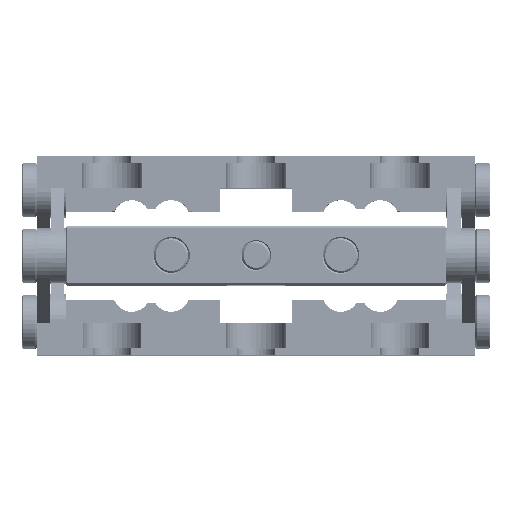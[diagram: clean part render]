
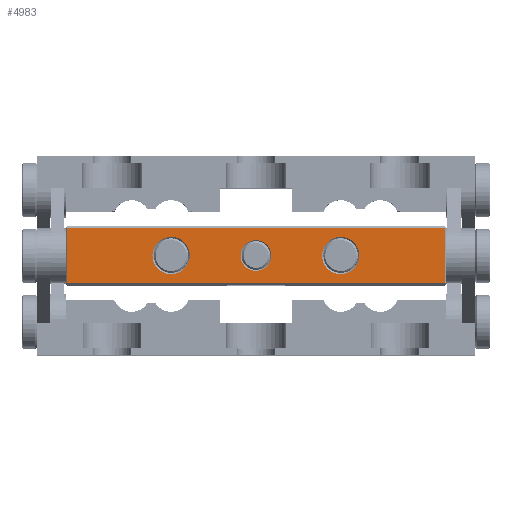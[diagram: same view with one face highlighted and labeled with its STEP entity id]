
A CAD part, top view. The second image highlights one B-rep face of the part: STEP entity #4983.
In plain terms, the highlighted planar face has unit normal (0, 0, 1).
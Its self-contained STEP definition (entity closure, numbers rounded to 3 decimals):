
#192=DIRECTION('',(0.,1.,0.));
#193=VECTOR('',#192,9.652);
#194=CARTESIAN_POINT('',(-37.753,-25.891,96.347));
#195=LINE('',#194,#193);
#216=DIRECTION('',(1.,0.,0.));
#217=VECTOR('',#216,65.532);
#218=CARTESIAN_POINT('',(-37.753,-16.239,96.347));
#219=LINE('',#218,#217);
#276=DIRECTION('',(0.,-1.,0.));
#277=VECTOR('',#276,9.652);
#278=CARTESIAN_POINT('',(27.779,-16.239,96.347));
#279=LINE('',#278,#277);
#308=DIRECTION('',(-1.,0.,0.));
#309=VECTOR('',#308,65.532);
#310=CARTESIAN_POINT('',(27.779,-25.891,96.347));
#311=LINE('',#310,#309);
#316=CARTESIAN_POINT('',(-19.719,-21.065,96.347));
#317=DIRECTION('',(0.,0.,-1.));
#318=DIRECTION('',(1.,0.,0.));
#319=AXIS2_PLACEMENT_3D('',#316,#317,#318);
#321=CARTESIAN_POINT('',(-19.719,-21.065,96.347));
#322=DIRECTION('',(0.,0.,-1.));
#323=DIRECTION('',(-1.,0.,0.));
#324=AXIS2_PLACEMENT_3D('',#321,#322,#323);
#326=CARTESIAN_POINT('',(9.745,-21.065,96.347));
#327=DIRECTION('',(0.,0.,-1.));
#328=DIRECTION('',(1.,0.,0.));
#329=AXIS2_PLACEMENT_3D('',#326,#327,#328);
#331=CARTESIAN_POINT('',(9.745,-21.065,96.347));
#332=DIRECTION('',(0.,0.,-1.));
#333=DIRECTION('',(-1.,0.,0.));
#334=AXIS2_PLACEMENT_3D('',#331,#332,#333);
#336=CARTESIAN_POINT('',(-4.987,-21.065,96.347));
#337=DIRECTION('',(0.,0.,-1.));
#338=DIRECTION('',(1.,0.,0.));
#339=AXIS2_PLACEMENT_3D('',#336,#337,#338);
#341=CARTESIAN_POINT('',(-4.987,-21.065,96.347));
#342=DIRECTION('',(0.,0.,-1.));
#343=DIRECTION('',(-1.,0.,0.));
#344=AXIS2_PLACEMENT_3D('',#341,#342,#343);
#4140=CARTESIAN_POINT('',(-2.32,-21.065,
96.347));
#4141=CARTESIAN_POINT('',(-7.654,-21.065,
96.347));
#4142=VERTEX_POINT('',#4140);
#4143=VERTEX_POINT('',#4141);
#4144=CARTESIAN_POINT('',(12.983,-21.065,96.347));
#4145=CARTESIAN_POINT('',(6.506,-21.065,96.347));
#4146=VERTEX_POINT('',#4144);
#4147=VERTEX_POINT('',#4145);
#4152=CARTESIAN_POINT('',(-16.481,-21.065,
96.347));
#4153=CARTESIAN_POINT('',(-22.958,-21.065,
96.347));
#4154=VERTEX_POINT('',#4152);
#4155=VERTEX_POINT('',#4153);
#4248=CARTESIAN_POINT('',(27.779,-16.239,96.347));
#4249=CARTESIAN_POINT('',(27.779,-25.891,96.347));
#4250=VERTEX_POINT('',#4248);
#4251=VERTEX_POINT('',#4249);
#4254=CARTESIAN_POINT('',(-37.753,-16.239,
96.347));
#4255=VERTEX_POINT('',#4254);
#4270=CARTESIAN_POINT('',(-37.753,-25.891,
96.347));
#4271=VERTEX_POINT('',#4270);
#4956=CARTESIAN_POINT('',(28.033,-26.145,96.347));
#4957=DIRECTION('',(0.,0.,-1.));
#4958=DIRECTION('',(-1.,0.,0.));
#4959=AXIS2_PLACEMENT_3D('',#4956,#4957,#4958);
#4960=PLANE('',#4959);
#4961=ORIENTED_EDGE('',*,*,#4778,.T.);
#4962=ORIENTED_EDGE('',*,*,#4809,.T.);
#4963=ORIENTED_EDGE('',*,*,#4888,.T.);
#4964=ORIENTED_EDGE('',*,*,#4949,.T.);
#4965=EDGE_LOOP('',(#4961,#4962,#4963,#4964));
#4966=FACE_OUTER_BOUND('',#4965,.F.);
#4967=ORIENTED_EDGE('',*,*,#4558,.F.);
#4968=ORIENTED_EDGE('',*,*,#4541,.F.);
#4969=EDGE_LOOP('',(#4967,#4968));
#4970=FACE_BOUND('',#4969,.F.);
#4972=ORIENTED_EDGE('',*,*,#4971,.F.);
#4974=ORIENTED_EDGE('',*,*,#4973,.F.);
#4975=EDGE_LOOP('',(#4972,#4974));
#4976=FACE_BOUND('',#4975,.F.);
#4978=ORIENTED_EDGE('',*,*,#4977,.F.);
#4980=ORIENTED_EDGE('',*,*,#4979,.F.);
#4981=EDGE_LOOP('',(#4978,#4980));
#4982=FACE_BOUND('',#4981,.F.);
#4983=ADVANCED_FACE('',(#4966,#4970,#4976,#4982),#4960,.F.);
#320=CIRCLE('',#319,3.239);
#325=CIRCLE('',#324,3.239);
#330=CIRCLE('',#329,3.239);
#335=CIRCLE('',#334,3.239);
#340=CIRCLE('',#339,2.667);
#345=CIRCLE('',#344,2.667);
#4541=EDGE_CURVE('',#4155,#4154,#325,.T.);
#4558=EDGE_CURVE('',#4154,#4155,#320,.T.);
#4778=EDGE_CURVE('',#4271,#4255,#195,.T.);
#4809=EDGE_CURVE('',#4255,#4250,#219,.T.);
#4888=EDGE_CURVE('',#4250,#4251,#279,.T.);
#4949=EDGE_CURVE('',#4251,#4271,#311,.T.);
#4971=EDGE_CURVE('',#4146,#4147,#330,.T.);
#4973=EDGE_CURVE('',#4147,#4146,#335,.T.);
#4977=EDGE_CURVE('',#4142,#4143,#340,.T.);
#4979=EDGE_CURVE('',#4143,#4142,#345,.T.);
